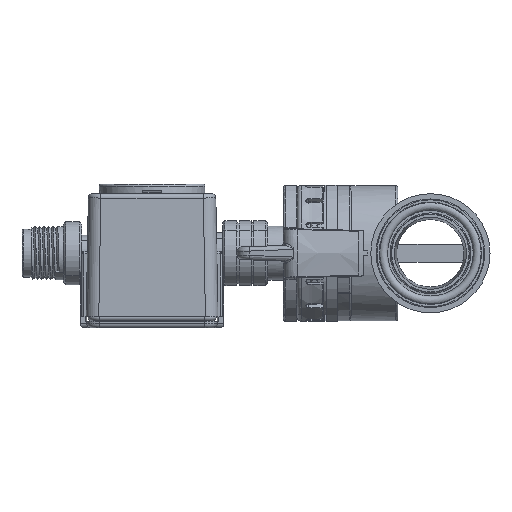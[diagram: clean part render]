
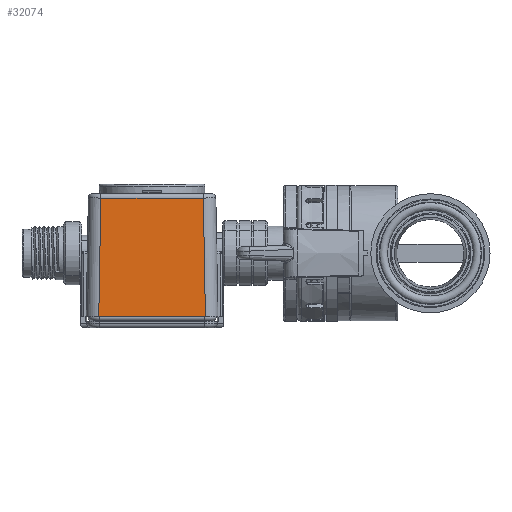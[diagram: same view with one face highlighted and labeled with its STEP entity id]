
A CAD part, left-side view. The second image highlights one B-rep face of the part: STEP entity #32074.
In plain terms, the highlighted planar face has unit normal (-1, 0, 0.018).
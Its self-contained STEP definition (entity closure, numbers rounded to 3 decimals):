
#3437=PLANE('',#37290);
#4500=FACE_OUTER_BOUND('',#6119,.T.);
#6119=EDGE_LOOP('',(#15144,#15145,#15146,#15147));
#8210=LINE('',#59308,#10010);
#8214=LINE('',#59326,#10014);
#8215=LINE('',#59328,#10015);
#8216=LINE('',#59330,#10016);
#10010=VECTOR('',#42644,1.);
#10014=VECTOR('',#42660,1.);
#10015=VECTOR('',#42661,1.);
#10016=VECTOR('',#42662,1.);
#15144=ORIENTED_EDGE('',*,*,#20965,.T.);
#15145=ORIENTED_EDGE('',*,*,#20973,.F.);
#15146=ORIENTED_EDGE('',*,*,#20974,.F.);
#15147=ORIENTED_EDGE('',*,*,#20975,.T.);
#20965=EDGE_CURVE('',#34775,#34776,#8210,.T.);
#20973=EDGE_CURVE('',#34783,#34776,#8214,.T.);
#20974=EDGE_CURVE('',#34784,#34783,#8215,.T.);
#20975=EDGE_CURVE('',#34784,#34775,#8216,.T.);
#32074=ADVANCED_FACE('',(#4500),#3437,.F.);
#34775=VERTEX_POINT('',#59309);
#34776=VERTEX_POINT('',#59310);
#34783=VERTEX_POINT('',#59327);
#34784=VERTEX_POINT('',#59329);
#37290=AXIS2_PLACEMENT_3D('',#59331,#42663,#42664);
#42644=DIRECTION('',(-0.017,0.017,-1.));
#42660=DIRECTION('',(0.,1.,0.));
#42661=DIRECTION('',(-0.017,-0.017,-1.));
#42662=DIRECTION('',(0.,1.,0.));
#42663=DIRECTION('',(1.,0.,-0.017));
#42664=DIRECTION('',(0.017,0.,1.));
#59308=CARTESIAN_POINT('',(-66.269,53.651,-19.543));
#59309=CARTESIAN_POINT('',(-65.714,53.096,12.249));
#59310=CARTESIAN_POINT('',(-66.173,53.555,-14.045));
#59326=CARTESIAN_POINT('',(-66.173,49.065,-14.045));
#59327=CARTESIAN_POINT('',(-66.173,29.905,-14.045));
#59328=CARTESIAN_POINT('',(-66.269,29.809,-19.543));
#59329=CARTESIAN_POINT('',(-65.714,30.364,12.249));
#59330=CARTESIAN_POINT('',(-65.714,49.065,12.249));
#59331=CARTESIAN_POINT('',(-66.271,49.065,-19.623));
